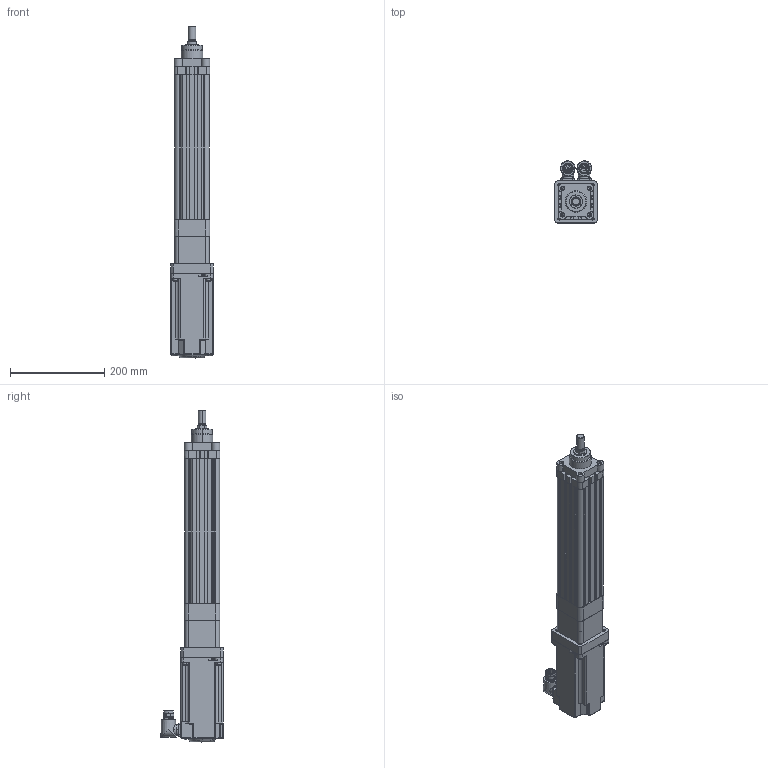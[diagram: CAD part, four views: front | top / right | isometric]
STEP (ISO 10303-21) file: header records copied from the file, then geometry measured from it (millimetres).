
FILE_DESCRIPTION (( 'STEP AP214' ), '1' );
FILE_NAME ('Rockwell Automation-$PARTNUMBER.STEP', '2012-05-16T08:45:23', ( 'SysAdmin' ), ( 'SolidWorks' ), 'SwSTEP 2.0', 'SolidWorks 2012', '' );
FILE_SCHEMA (( 'AUTOMOTIVE_DESIGN' ));
Length unit declared in the file: millimetre
Products named in the file (15): Rockwell Automation-$PARTNUMBER_Rockwell Automation-MPAR-x3200E-M2A_PRT0008-543143; Rockwell Automation-$PARTNUMBER_Rockwell Automation-MPAR-x3200E-M2A_PRT0007-543143; Rockwell Automation-$PARTNUMBER_Rockwell Automation-MPAR-x3200E-M2A__MPL-x330F-M-X211_MPL-x330x-xJ72AA; Rockwell Automation-$PARTNUMBER_Rockwell Automation-MPAR-x3200E-M2A__MPL-x330x-xJ72AA_MPL-3xx-Encoder Connector; Rockwell Automation-$PARTNUMBER_Rockwell Automation-MPAR-x3200E-M2A__MPL-x330x-xJ72AA_MPL-3xx-Power Connector; Rockwell Automation-$PARTNUMBER_Rockwell Automation-MPAR-x3200E-M2A__MPL-x330x-xJ72AA_MPL-3xx-Shaft_330-keyed; Rockwell Automation-$PARTNUMBER_Rockwell Automation-MPAR-x3200E-M2A__MPL-x330x-xJ72AA_MPL-3xx-Body_330; Rockwell Automation-$PARTNUMBER_Rockwell Automation-MPAR-x3200E-M2A_Size_63_FC; Rockwell Automation-$PARTNUMBER_Rockwell Automation-MPAR-x3200E-M2A_DIN912-6X25; Rockwell Automation-$PARTNUMBER_Rockwell Automation-MPAR-x3200E-M2A_DIN912-6X20; Rockwell Automation-$PARTNUMBER_Rockwell Automation-MPAR-x3200E-M2A_B627390; Rockwell Automation-$PARTNUMBER_Rockwell Automation-MPAR-x3200E-M2A_DIN912-8X40; Rockwell Automation-$PARTNUMBER_Rockwell Automation-MPAR-x3200E-M2A_627458; Rockwell Automation-$PARTNUMBER; Rockwell Automation-$PARTNUMBER_Rockwell Automation-MPAR-x3200E-M2A_MPAR-x3200x
Assembly tree (23 placements, depth 3):
  Rockwell Automation-$PARTNUMBER
    Rockwell Automation-$PARTNUMBER_Rockwell Automation-MPAR-x3200E-M2A_Size_63_FC
      Rockwell Automation-$PARTNUMBER_Rockwell Automation-MPAR-x3200E-M2A_627458
      Rockwell Automation-$PARTNUMBER_Rockwell Automation-MPAR-x3200E-M2A_DIN912-8X40  x4
      Rockwell Automation-$PARTNUMBER_Rockwell Automation-MPAR-x3200E-M2A_B627390
      Rockwell Automation-$PARTNUMBER_Rockwell Automation-MPAR-x3200E-M2A_DIN912-6X20  x4
      Rockwell Automation-$PARTNUMBER_Rockwell Automation-MPAR-x3200E-M2A_DIN912-6X25  x4
    Rockwell Automation-$PARTNUMBER_Rockwell Automation-MPAR-x3200E-M2A__MPL-x330F-M-X211_MPL-x330x-xJ72AA
      Rockwell Automation-$PARTNUMBER_Rockwell Automation-MPAR-x3200E-M2A__MPL-x330x-xJ72AA_MPL-3xx-Body_330
      Rockwell Automation-$PARTNUMBER_Rockwell Automation-MPAR-x3200E-M2A__MPL-x330x-xJ72AA_MPL-3xx-Shaft_330-keyed
      Rockwell Automation-$PARTNUMBER_Rockwell Automation-MPAR-x3200E-M2A__MPL-x330x-xJ72AA_MPL-3xx-Power Connector
      Rockwell Automation-$PARTNUMBER_Rockwell Automation-MPAR-x3200E-M2A__MPL-x330x-xJ72AA_MPL-3xx-Encoder Connector
    Rockwell Automation-$PARTNUMBER_Rockwell Automation-MPAR-x3200E-M2A_MPAR-x3200x
      Rockwell Automation-$PARTNUMBER_Rockwell Automation-MPAR-x3200E-M2A_PRT0007-543143
      Rockwell Automation-$PARTNUMBER_Rockwell Automation-MPAR-x3200E-M2A_PRT0008-543143
Bounding box: 89.41 x 132.08 x 703.82 mm (x, y, z)
Volume: 2334517.7 mm3; surface area: 492779.7 mm2
Topology: 20 solids, 25 shells, 1832 faces, 4615 edges, 2956 vertices
Faces by surface type: plane 747, cylinder 636, cone 297, torus 88, bspline 64
Entity records: 59150 total; most frequent: CARTESIAN_POINT 18510, ORIENTED_EDGE 8338, DIRECTION 7847, EDGE_CURVE 4177, AXIS2_PLACEMENT_3D 2856, VERTEX_POINT 2704, LINE 2135, VECTOR 2135
